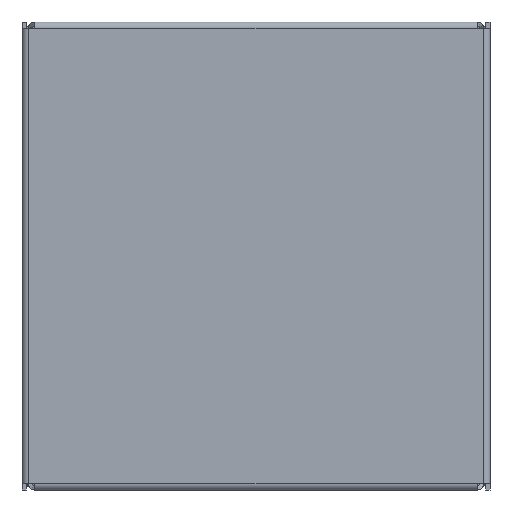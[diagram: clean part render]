
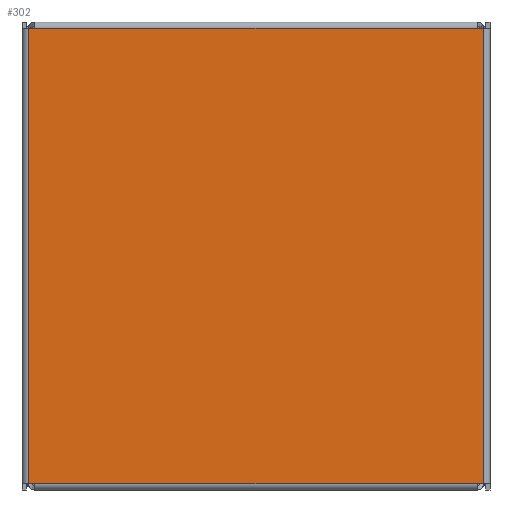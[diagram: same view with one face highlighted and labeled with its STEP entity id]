
A CAD part, front view. The second image highlights one B-rep face of the part: STEP entity #302.
In plain terms, the highlighted planar face has unit normal (0, -1, 0) as drawn and (0, 0, -1) by its records, which use the part's own axes.
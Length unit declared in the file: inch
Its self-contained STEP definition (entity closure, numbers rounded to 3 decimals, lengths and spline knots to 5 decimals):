
#231=CARTESIAN_POINT('',(-2.0,-2.0,0.0));
#232=DIRECTION('',(0.0,0.0,1.0));
#233=DIRECTION('',(1.0,0.0,0.0));
#234=AXIS2_PLACEMENT_3D('',#231,#232,#233);
#235=PLANE('',#234);
#236=CARTESIAN_POINT('',(1.946,1.946,0.0));
#237=VERTEX_POINT('',#236);
#238=CARTESIAN_POINT('',(1.946,-1.946,0.0));
#239=VERTEX_POINT('',#238);
#240=CARTESIAN_POINT('',(1.946,1.946,0.0));
#241=DIRECTION('',(0.0,-1.0,0.0));
#242=VECTOR('',#241,3.892);
#243=LINE('',#240,#242);
#244=EDGE_CURVE('',#237,#239,#243,.T.);
#245=ORIENTED_EDGE('',*,*,#244,.T.);
#246=CARTESIAN_POINT('',(1.892,-1.946,0.0));
#247=VERTEX_POINT('',#246);
#248=CARTESIAN_POINT('',(1.946,-1.946,0.0));
#249=DIRECTION('',(-1.0,0.0,0.0));
#250=VECTOR('',#249,0.054);
#251=LINE('',#248,#250);
#252=EDGE_CURVE('',#239,#247,#251,.T.);
#253=ORIENTED_EDGE('',*,*,#252,.T.);
#254=CARTESIAN_POINT('',(-1.892,-1.946,0.0));
#255=VERTEX_POINT('',#254);
#256=CARTESIAN_POINT('',(1.892,-1.946,0.0));
#257=DIRECTION('',(-1.0,0.0,0.0));
#258=VECTOR('',#257,3.784);
#259=LINE('',#256,#258);
#260=EDGE_CURVE('',#247,#255,#259,.T.);
#261=ORIENTED_EDGE('',*,*,#260,.T.);
#262=CARTESIAN_POINT('',(-1.946,-1.946,0.0));
#263=VERTEX_POINT('',#262);
#264=CARTESIAN_POINT('',(-1.892,-1.946,0.0));
#265=DIRECTION('',(-1.0,0.0,0.0));
#266=VECTOR('',#265,0.054);
#267=LINE('',#264,#266);
#268=EDGE_CURVE('',#255,#263,#267,.T.);
#269=ORIENTED_EDGE('',*,*,#268,.T.);
#270=CARTESIAN_POINT('',(-1.946,1.946,0.0));
#271=VERTEX_POINT('',#270);
#272=CARTESIAN_POINT('',(-1.946,-1.946,0.0));
#273=DIRECTION('',(0.0,1.0,0.0));
#274=VECTOR('',#273,3.892);
#275=LINE('',#272,#274);
#276=EDGE_CURVE('',#263,#271,#275,.T.);
#277=ORIENTED_EDGE('',*,*,#276,.T.);
#278=CARTESIAN_POINT('',(-1.892,1.946,0.0));
#279=VERTEX_POINT('',#278);
#280=CARTESIAN_POINT('',(-1.946,1.946,0.0));
#281=DIRECTION('',(1.0,0.0,0.0));
#282=VECTOR('',#281,0.054);
#283=LINE('',#280,#282);
#284=EDGE_CURVE('',#271,#279,#283,.T.);
#285=ORIENTED_EDGE('',*,*,#284,.T.);
#286=CARTESIAN_POINT('',(1.892,1.946,0.0));
#287=VERTEX_POINT('',#286);
#288=CARTESIAN_POINT('',(-1.892,1.946,0.0));
#289=DIRECTION('',(1.0,0.0,0.0));
#290=VECTOR('',#289,3.784);
#291=LINE('',#288,#290);
#292=EDGE_CURVE('',#279,#287,#291,.T.);
#293=ORIENTED_EDGE('',*,*,#292,.T.);
#294=CARTESIAN_POINT('',(1.892,1.946,0.0));
#295=DIRECTION('',(1.0,0.0,0.0));
#296=VECTOR('',#295,0.054);
#297=LINE('',#294,#296);
#298=EDGE_CURVE('',#287,#237,#297,.T.);
#299=ORIENTED_EDGE('',*,*,#298,.T.);
#300=EDGE_LOOP('',(#245,#253,#261,#269,#277,#285,#293,#299));
#301=FACE_OUTER_BOUND('',#300,.T.);
#302=ADVANCED_FACE('',(#301),#235,.F.);
